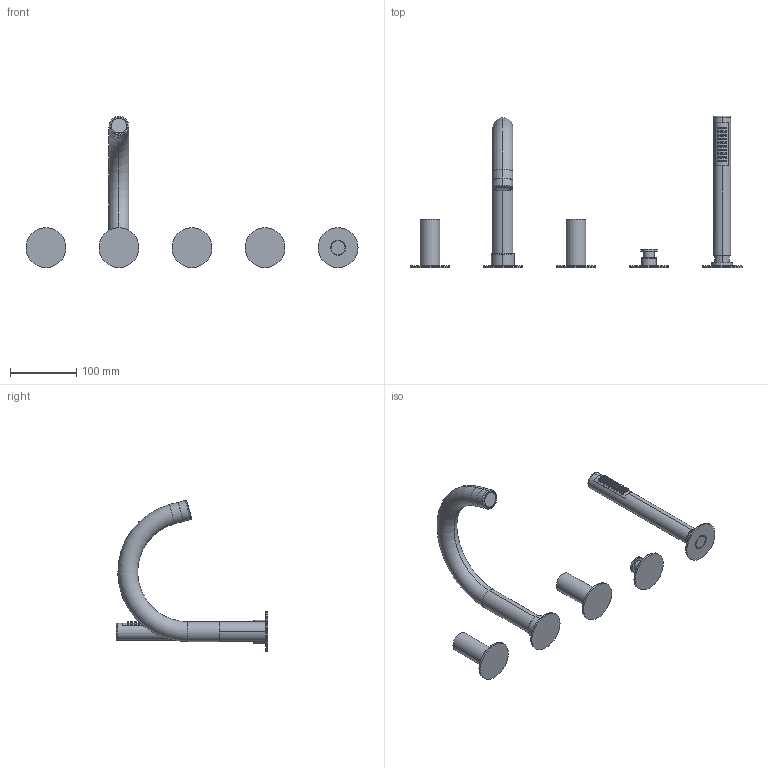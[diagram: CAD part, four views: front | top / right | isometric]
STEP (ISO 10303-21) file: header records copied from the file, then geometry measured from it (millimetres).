
FILE_DESCRIPTION((''),'2;1');
FILE_NAME('12029A_SW0001','2025-03-04T09:13:47',('carloff'),(''),'CREO PARAMETRIC BY PTC INC, 2022014','CREO PARAMETRIC BY PTC INC, 2022014','');
FILE_SCHEMA(('CONFIG_CONTROL_DESIGN'));
Length unit declared in the file: millimetre
Products named in the file (1): 12029A_SW0001
Bounding box: 500 x 228.5 x 227.73 mm (x, y, z)
Volume: 536923.9 mm3; surface area: 121129.4 mm2
Topology: 5 solids, 5 shells, 683 faces, 2157 edges, 1388 vertices
Faces by surface type: plane 360, cylinder 215, cone 60, torus 44, bspline 4
Entity records: 28975 total; most frequent: CARTESIAN_POINT 10708, ORIENTED_EDGE 4274, DIRECTION 3229, EDGE_CURVE 2137, VERTEX_POINT 1388, VECTOR 1099, LINE 1099, AXIS2_PLACEMENT_3D 1065
